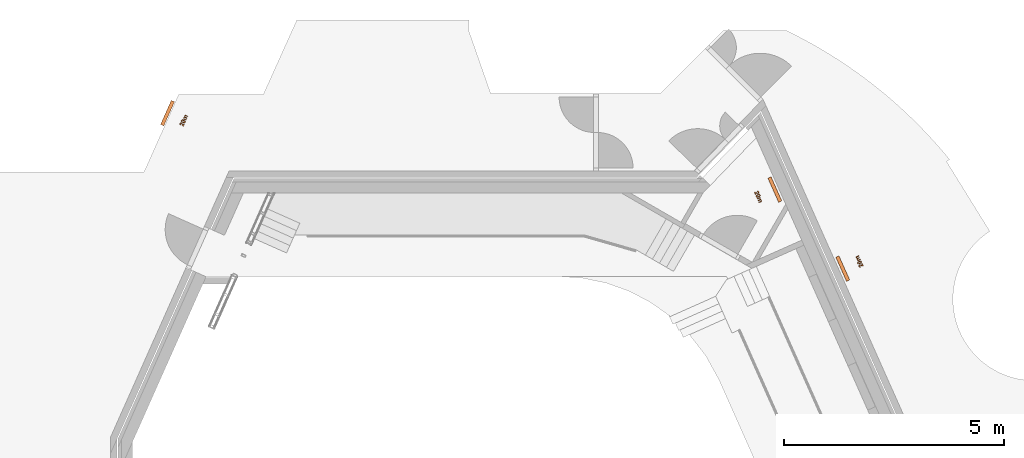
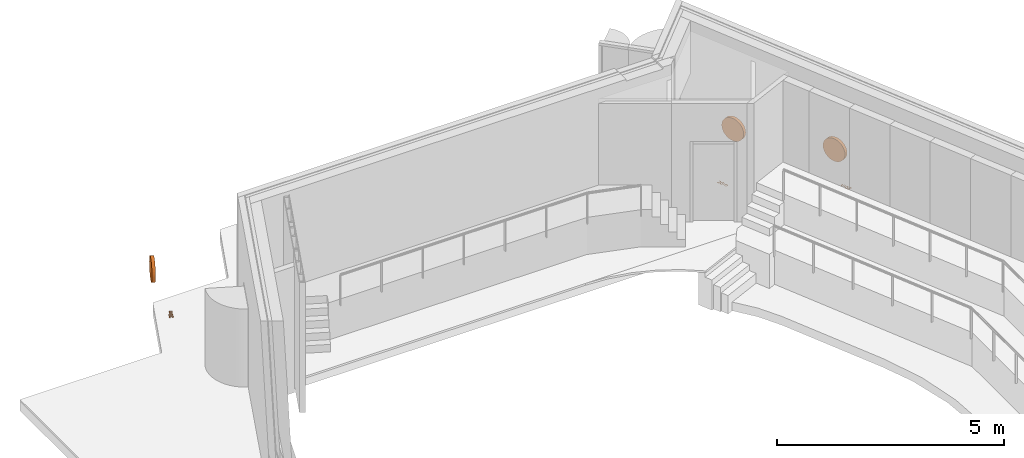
# One storey, part 16 of 16: 3 proxies.
"""IFC2X3 building model written with IfcOpenShell, lengths in millimetres."""

import ifcopenshell
import ifcopenshell.guid

model = None  # the IFC model being written
_history = None  # IfcOwnerHistory: only IFC2X3 demands one
_inside = {}  # id of a spatial element -> (the spatial element, [elements in it])
_under = {}  # id of a project, library or spatial element -> (it, [spatial elements below it])
_declared = {}  # id of a project -> (the project, [libraries it declares])
_typed = {}  # id of a type object -> (the type object, [elements of that type])
_made_of = {}  # id of a material, layer set ... -> (it, [elements and type objects made of it])


def new_model(schema):
    """Start an empty IFC model of exactly this schema.

    Asked for "IFC4X3", IfcOpenShell would pick the latest addendum, in which some entities
    have other attributes; the version numbers below select the first issue.
    IFC2X3 requires an IfcOwnerHistory on every rooted entity: one is made here for all.
    """
    global model, _history
    if schema == "IFC4X3":
        model = ifcopenshell.file(schema_version=(4, 3, 0, 0))
    else:
        model = ifcopenshell.file(schema=schema)
    _inside.clear()
    _under.clear()
    _declared.clear()
    _typed.clear()
    _made_of.clear()
    _history = None
    if model.schema == "IFC2X3":
        org = make("IfcOrganization", Name="unknown")
        user = make(
            "IfcPersonAndOrganization",
            ThePerson=make("IfcPerson", FamilyName="unknown"),
            TheOrganization=org,
        )
        app = make(
            "IfcApplication",
            ApplicationDeveloper=org,
            Version="unknown",
            ApplicationFullName="unknown",
            ApplicationIdentifier="unknown",
        )
        _history = make(
            "IfcOwnerHistory",
            OwningUser=user,
            OwningApplication=app,
            ChangeAction="ADDED",
            CreationDate=0,
        )
    return model


def make(cls, **values):
    """One entity of the class cls with the attributes given. An attribute that is None is left unset."""
    return model.create_entity(
        cls, **{name: value for name, value in values.items() if value is not None}
    )


def entity(cls, *values):
    """Any entity or typed value of the class cls, its attributes in the order of the schema. None: left unset."""
    e = model.create_entity(cls)
    for i, value in enumerate(values):
        if value is not None:
            e[i] = value
    return e


def rooted(cls, **values):
    """An entity with a GlobalId (a new one), such as an element, a storey or a relation."""
    return make(cls, GlobalId=ifcopenshell.guid.new(), OwnerHistory=_history, **values)


def si_unit(unit_type, name, prefix=None):
    """IfcSIUnit, for example si_unit("LENGTHUNIT", "METRE", prefix="MILLI")."""
    return make("IfcSIUnit", UnitType=unit_type, Prefix=prefix, Name=name)


def converted_unit(unit_type, name, factor, base, dimensions=None, offset=None):
    """IfcConversionBasedUnit, such as the inch: factor (a typed value) times the base unit."""
    return make(
        "IfcConversionBasedUnit"
        if offset is None
        else "IfcConversionBasedUnitWithOffset",
        ConversionOffset=offset,
        Dimensions=None
        if dimensions is None
        else entity("IfcDimensionalExponents", *dimensions),
        UnitType=unit_type,
        Name=name,
        ConversionFactor=make(
            "IfcMeasureWithUnit", ValueComponent=factor, UnitComponent=base
        ),
    )


def derived_unit(unit_type, elements):
    """IfcDerivedUnit: a product of units, each with its exponent."""
    return make(
        "IfcDerivedUnit",
        Elements=[
            make("IfcDerivedUnitElement", Unit=unit, Exponent=power)
            for unit, power in elements
        ],
        UnitType=unit_type,
    )


def assignment(units):
    """IfcUnitAssignment: the units of a project."""
    return None if units is None else make("IfcUnitAssignment", Units=units)


def point(xyz):
    """IfcCartesianPoint."""
    return None if xyz is None else make("IfcCartesianPoint", Coordinates=xyz)


def direction(xyz):
    """IfcDirection."""
    return None if xyz is None else make("IfcDirection", DirectionRatios=xyz)


def frame(location, z_axis=None, x_axis=None):
    """IfcAxis2Placement3D, a coordinate frame: its origin and axes. An axis left out is left unset."""
    return make(
        "IfcAxis2Placement3D",
        Location=point(location),
        Axis=direction(z_axis),
        RefDirection=direction(x_axis),
    )


def origin():
    """The frame at (0, 0, 0) with its axes left unset."""
    return frame((0.0, 0.0, 0.0))


def place(relative_to, where):
    """IfcLocalPlacement: puts the frame where relative to a parent placement (None: the world)."""
    return make(
        "IfcLocalPlacement", PlacementRelTo=relative_to, RelativePlacement=where
    )


def context(
    kind, dimensions, precision=None, world=None, true_north=None, identifier=None
):
    """IfcGeometricRepresentationContext, for example the 3D "Model" context."""
    return make(
        "IfcGeometricRepresentationContext",
        ContextIdentifier=identifier,
        ContextType=kind,
        CoordinateSpaceDimension=dimensions,
        Precision=precision,
        WorldCoordinateSystem=world,
        TrueNorth=true_north,
    )


def subcontext(parent, identifier, kind, view, scale=None):
    """IfcGeometricRepresentationSubContext, for example "Body" below "Model"."""
    return make(
        "IfcGeometricRepresentationSubContext",
        ContextIdentifier=identifier,
        ContextType=kind,
        ParentContext=parent,
        TargetScale=scale,
        TargetView=view,
    )


def project(units=None, contexts=None):
    """IfcProject with its units and contexts."""
    return rooted(
        "IfcProject",
        Name="project",
        RepresentationContexts=contexts,
        UnitsInContext=assignment(units),
    )


def spatial(cls, under=None, at=None, **own):
    """A site, building, storey or space (cls), placed at a placement, below another one or the project."""
    s = rooted(cls, ObjectPlacement=at, **own)
    if under is not None:
        _under.setdefault(under.id(), (under, []))[1].append(s)
    return s


def faces_of(points, faces, orient=None, outer=None):
    """IfcFace entities. A face is a list of loops; a loop is a list of indices into points, from 0.

    orient and outer hold one flag for each loop. By default every Orientation is true, the
    first loop of a face is its IfcFaceOuterBound and the others are IfcFaceBound.
    """
    made = []
    for i, loops in enumerate(faces):
        bounds = []
        for j, loop in enumerate(loops):
            is_outer = j == 0 if outer is None else outer[i][j]
            bounds.append(
                make(
                    "IfcFaceOuterBound" if is_outer else "IfcFaceBound",
                    Bound=make("IfcPolyLoop", Polygon=[points[k] for k in loop]),
                    Orientation=True if orient is None else orient[i][j],
                )
            )
        made.append(make("IfcFace", Bounds=bounds))
    return made


def face_set(faces, orient=None, outer=None):
    """The faces of one IfcConnectedFaceSet. surface_model builds it on its shared points."""
    return ("IfcConnectedFaceSet", faces, orient, outer)


def surface_model(cls, points, shells):
    """IfcFaceBasedSurfaceModel or IfcShellBasedSurfaceModel (cls): surfaces that need not close."""
    shared = [point(p) for p in points]
    made = [make(c, CfsFaces=faces_of(shared, fs, o, b)) for c, fs, o, b in shells]
    if cls == "IfcFaceBasedSurfaceModel":
        return make(cls, FbsmFaces=made)
    return make(cls, SbsmBoundary=made)


def shape(context_of_items, identifier, shape_type, items):
    """IfcShapeRepresentation: the items that make up one representation, for example the "Body"."""
    return make(
        "IfcShapeRepresentation",
        ContextOfItems=context_of_items,
        RepresentationIdentifier=identifier,
        RepresentationType=shape_type,
        Items=items,
    )


def source(mapping_origin, context_of_items, identifier, shape_type, items):
    """IfcRepresentationMap: a shape defined once, which mapped items show again and again."""
    return make(
        "IfcRepresentationMap",
        MappingOrigin=mapping_origin,
        MappedRepresentation=shape(context_of_items, identifier, shape_type, items),
    )


def transform(
    local_origin,
    x_axis=None,
    y_axis=None,
    z_axis=None,
    scale=None,
    scale2=None,
    scale3=None,
    uniform=True,
):
    """IfcCartesianTransformationOperator3D, or its non-uniform kind. x_axis, y_axis, z_axis: its Axis1, 2, 3."""
    if uniform:
        return make(
            "IfcCartesianTransformationOperator3D",
            Axis1=direction(x_axis),
            Axis2=direction(y_axis),
            LocalOrigin=point(local_origin),
            Scale=scale,
            Axis3=direction(z_axis),
        )
    return make(
        "IfcCartesianTransformationOperator3DnonUniform",
        Axis1=direction(x_axis),
        Axis2=direction(y_axis),
        LocalOrigin=point(local_origin),
        Scale=scale,
        Axis3=direction(z_axis),
        Scale2=scale2,
        Scale3=scale3,
    )


def mapped(mapping_source, mapping_target):
    """IfcMappedItem: shows the shape of a source again, moved by a transform."""
    return make(
        "IfcMappedItem", MappingSource=mapping_source, MappingTarget=mapping_target
    )


def material(Name=None, Category=None):
    """IfcMaterial."""
    return make("IfcMaterial", Name=Name, Category=Category)


def made_of(thing, what):
    """Note that an element or type object is made of a material, layer set ...; save() writes the relation."""
    if what is not None:
        _made_of.setdefault(what.id(), (what, []))[1].append(thing)
    return thing


def type_object(cls, material=None, **own):
    """A type object (cls), such as IfcWallType, which elements share."""
    return made_of(rooted(cls, **own), material)


def type_shapes(of_type, sources):
    """Give a type object the sources (RepresentationMaps) that its elements show as mapped items."""
    of_type.RepresentationMaps = sources


def element(
    cls,
    number,
    at=None,
    inside=None,
    cuts=None,
    type_object=None,
    material=None,
    context=None,
    identifier="Body",
    shape_type=None,
    held_by="IfcProductDefinitionShape",
    body=None,
    shapes=None,
    **own,
):
    """One element of the class cls, such as IfcWall. Its Tag is "e" and its number.

    at: its placement. inside: the storey or other place that contains it. cuts: it is an
    opening in that element (IfcRelVoidsElement). A single representation is given by context,
    identifier, shape_type and body (its items); several are given by shapes. held_by: the class
    of the entity that holds the representations. save() writes the other relations.
    """
    e = rooted(cls, Tag="e%d" % number, ObjectPlacement=at, **own)
    if body is not None:
        shapes = [shape(context, identifier, shape_type, body)]
    if shapes is not None:
        e.Representation = make(held_by, Representations=shapes)
    if inside is not None:
        _inside.setdefault(inside.id(), (inside, []))[1].append(e)
    if cuts is not None:
        rooted(
            "IfcRelVoidsElement", RelatingBuildingElement=cuts, RelatedOpeningElement=e
        )
    if type_object is not None:
        _typed.setdefault(type_object.id(), (type_object, []))[1].append(e)
    return made_of(e, material)


def aggregate(whole, parts):
    """IfcRelAggregates: a whole, such as a stair, and the parts it consists of."""
    return rooted("IfcRelAggregates", RelatingObject=whole, RelatedObjects=parts)


def save(model, path):
    """Write the relations noted so far, then the file.

    IfcRelAggregates (storeys below a building ...), IfcRelContainedInSpatialStructure (elements
    in a storey), IfcRelDefinesByType, IfcRelAssociatesMaterial and IfcRelDeclares: one each for
    every whole, place, type object, material and project.
    """
    for whole, parts in _under.values():
        aggregate(whole, parts)
    for where, things in _inside.values():
        rooted(
            "IfcRelContainedInSpatialStructure",
            RelatedElements=things,
            RelatingStructure=where,
        )
    for kind, things in _typed.values():
        rooted("IfcRelDefinesByType", RelatedObjects=things, RelatingType=kind)
    for what, things in _made_of.values():
        rooted("IfcRelAssociatesMaterial", RelatedObjects=things, RelatingMaterial=what)
    for by, libraries in _declared.values():
        rooted("IfcRelDeclares", RelatingContext=by, RelatedDefinitions=libraries)
    model.write(path)


model = new_model("IFC2X3")

# Units and contexts
model_context = context("Model", 3, precision=0.01, world=origin(), true_north=direction((6.123031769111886e-17, 1.0)))
body_context = subcontext(model_context, "Body", "Model", "MODEL_VIEW")
ifc_project = project(units=[si_unit("LENGTHUNIT", "METRE", prefix="MILLI"), si_unit("AREAUNIT", "SQUARE_METRE"), si_unit("VOLUMEUNIT", "CUBIC_METRE"), converted_unit("PLANEANGLEUNIT", "DEGREE", entity("IfcRatioMeasure", 0.017453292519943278), si_unit("PLANEANGLEUNIT", "RADIAN"), dimensions=[0, 0, 0, 0, 0, 0, 0]), si_unit("MASSUNIT", "GRAM", prefix="KILO"), derived_unit("MASSDENSITYUNIT", [(si_unit("MASSUNIT", "GRAM", prefix="KILO"), 1), (si_unit("LENGTHUNIT", "METRE"), -3)]), derived_unit("MOMENTOFINERTIAUNIT", [(si_unit("LENGTHUNIT", "METRE"), 4)]), si_unit("TIMEUNIT", "SECOND"), si_unit("FREQUENCYUNIT", "HERTZ"), si_unit("THERMODYNAMICTEMPERATUREUNIT", "DEGREE_CELSIUS"), derived_unit("THERMALTRANSMITTANCEUNIT", [(si_unit("MASSUNIT", "GRAM", prefix="KILO"), 1), (si_unit("THERMODYNAMICTEMPERATUREUNIT", "KELVIN"), -1), (si_unit("TIMEUNIT", "SECOND"), -3)]), derived_unit("VOLUMETRICFLOWRATEUNIT", [(si_unit("LENGTHUNIT", "METRE"), 3), (si_unit("TIMEUNIT", "SECOND"), -1)]), derived_unit("MASSFLOWRATEUNIT", [(si_unit("MASSUNIT", "GRAM", prefix="KILO"), 1), (si_unit("TIMEUNIT", "SECOND"), -1)]), derived_unit("ROTATIONALFREQUENCYUNIT", [(si_unit("TIMEUNIT", "SECOND"), -1)]), si_unit("ELECTRICCURRENTUNIT", "AMPERE"), si_unit("ELECTRICVOLTAGEUNIT", "VOLT"), si_unit("POWERUNIT", "WATT"), si_unit("FORCEUNIT", "NEWTON", prefix="KILO"), si_unit("ILLUMINANCEUNIT", "LUX"), si_unit("LUMINOUSFLUXUNIT", "LUMEN"), si_unit("LUMINOUSINTENSITYUNIT", "CANDELA"), derived_unit("USERDEFINED", [(si_unit("MASSUNIT", "GRAM", prefix="KILO"), -1), (si_unit("LENGTHUNIT", "METRE"), -2), (si_unit("TIMEUNIT", "SECOND"), 3), (si_unit("LUMINOUSFLUXUNIT", "LUMEN"), 1)]), derived_unit("SOUNDPOWERUNIT", [(si_unit("MASSUNIT", "GRAM", prefix="KILO"), 1), (si_unit("LENGTHUNIT", "METRE"), 2), (si_unit("TIMEUNIT", "SECOND"), -3)]), derived_unit("SOUNDPRESSUREUNIT", [(si_unit("MASSUNIT", "GRAM", prefix="KILO"), 1), (si_unit("LENGTHUNIT", "METRE"), -1), (si_unit("TIMEUNIT", "SECOND"), -2)]), derived_unit("LINEARVELOCITYUNIT", [(si_unit("LENGTHUNIT", "METRE"), 1), (si_unit("TIMEUNIT", "SECOND"), -1)]), si_unit("PRESSUREUNIT", "PASCAL"), derived_unit("USERDEFINED", [(si_unit("LENGTHUNIT", "METRE"), -2), (si_unit("MASSUNIT", "GRAM", prefix="KILO"), 1), (si_unit("TIMEUNIT", "SECOND"), -2)]), derived_unit("LINEARFORCEUNIT", [(si_unit("MASSUNIT", "GRAM", prefix="KILO"), 1), (si_unit("LENGTHUNIT", "METRE"), 1), (si_unit("TIMEUNIT", "SECOND"), -2), (si_unit("LENGTHUNIT", "METRE"), -1)]), derived_unit("PLANARFORCEUNIT", [(si_unit("MASSUNIT", "GRAM", prefix="KILO"), 1), (si_unit("LENGTHUNIT", "METRE"), 1), (si_unit("TIMEUNIT", "SECOND"), -2), (si_unit("LENGTHUNIT", "METRE"), -2)])], contexts=[model_context])

# Site, building, storey, space
site_placement = place(None, frame((-10000.0, -10000.0, 0.0)))
site = spatial("IfcSite", under=ifc_project, at=site_placement, Name="Default", CompositionType="ELEMENT")
building_placement = place(site_placement, origin())
building = spatial("IfcBuilding", under=site, at=building_placement, CompositionType="ELEMENT")
storey_placement = place(building_placement, frame((0.0, 0.0, 9000.0)))
storey = spatial("IfcBuildingStorey", under=building, at=storey_placement, Name="02 2e verdieping", CompositionType="ELEMENT", Elevation=9000.0)
space_placement = place(storey_placement, origin())
space = spatial("IfcSpace", under=storey, at=space_placement, Name="2.1", CompositionType="ELEMENT", InteriorOrExteriorSpace="INTERNAL")

# Proxies
ifc_material = material(Name="<Unnamed>")
building_element_proxy_type = type_object("IfcBuildingElementProxyType", Name="NLRS_53_GM_brandslanghaspel opbouw_ags:20 meter", PredefinedType="NOTDEFINED", material=ifc_material)
shared_shape = source(origin(), body_context, "Body", "SurfaceModel", [
    surface_model("IfcFaceBasedSurfaceModel", [(229.7810715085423, 21.05297174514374, 0.0), (193.57097226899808, 21.05297174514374, 0.0), (197.21475584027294, 26.366822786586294, 0.0), (208.31058289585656, 37.42469376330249, 0.0), (220.3932680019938, 50.17793626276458, 0.0), (227.5290108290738, 62.956482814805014, 0.0), (229.7810715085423, 75.81094152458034, 0.0), (227.7251172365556, 86.70749916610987, 0.0), (221.55725442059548, 95.661970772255, 0.0), (211.78989012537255, 101.64954221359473, 0.0), (198.9354314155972, 103.64539936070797, 0.0), (186.897028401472, 101.86462666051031, 0.0), (177.04742593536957, 96.52230855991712, 0.0), (170.06350742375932, 87.08705995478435, 0.0), (166.62215627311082, 73.02749574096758, 0.0), (186.0556686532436, 71.25621206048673, 0.0), (189.8006684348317, 82.45325532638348, 0.0), (198.50526252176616, 85.8313463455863, 0.0), (207.19720458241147, 82.40264722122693, 0.0), (210.34755912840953, 72.57202279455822, 0.0), (206.60255934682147, 60.88155050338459, 0.0), (191.57195211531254, 44.58574064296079, 0.0), (171.20218978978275, 20.68606298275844, 0.0), (165.00269690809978, 1.6194593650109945, 0.0), (229.7810715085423, 1.6194593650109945, 0.0), (275.1259337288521, 103.64539936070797, 0.0), (262.2271929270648, 101.05173397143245, 0.0), (252.5294147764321, 93.2707378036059, 0.0), (245.18491351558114, 76.65230127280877, 0.0), (242.73674642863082, 51.99982804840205, 0.0), (244.96666606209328, 27.233486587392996, 0.0), (251.65642496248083, 11.386823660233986, 0.0), (261.98364142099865, 2.8467059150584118, 0.0), (275.1259337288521, 0.0, 0.0), (288.0246745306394, 2.5936653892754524, 0.0), (297.72245268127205, 10.374661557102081, 0.0), (305.066953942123, 27.031054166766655, 0.0), (307.5151210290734, 51.79739562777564, 0.0), (305.0796059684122, 76.5637370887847, 0.0), (297.7730607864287, 93.1189134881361, 0.0), (288.0373265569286, 101.013777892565, 0.0), (275.1259337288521, 85.8313463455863, 0.0), (281.5658151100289, 83.69315390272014, 0.0), (286.23441281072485, 75.17834021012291, 0.0), (288.0816086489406, 51.79739562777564, 0.0), (286.00667633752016, 27.632025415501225, 0.0), (281.60377118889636, 19.952245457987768, 0.0), (275.1259337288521, 17.814053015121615, 0.0), (268.6860523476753, 19.926941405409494, 0.0), (264.01745464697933, 28.403799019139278, 0.0), (262.1702588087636, 51.79739562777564, 0.0), (264.245191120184, 76.01337394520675, 0.0), (268.6480962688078, 83.69315390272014, 0.0), (322.0902553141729, 76.11459015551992, 0.0), (322.0902553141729, 1.6194593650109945, 0.0), (341.5237676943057, 1.6194593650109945, 0.0), (341.5237676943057, 38.0825991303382, 0.0), (343.04201084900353, 53.556027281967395, 0.0), (348.0522132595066, 60.69177010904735, 0.0), (355.92177361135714, 63.15891523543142, 0.0), (361.67844557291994, 61.602716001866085, 0.0), (364.80349606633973, 56.870858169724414, 0.0), (365.81565816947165, 42.73854480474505, 0.0), (365.81565816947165, 1.6194593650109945, 0.0), (385.2491705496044, 1.6194593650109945, 0.0), (385.2491705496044, 37.65243023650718, 0.0), (386.80536978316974, 53.163814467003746, 0.0), (391.8914843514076, 60.61585795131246, 0.0), (399.4194399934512, 63.15891523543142, 0.0), (407.56734492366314, 58.907834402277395, 0.0), (409.5410610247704, 44.509828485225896, 0.0), (409.5410610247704, 1.6194593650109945, 0.0), (428.97457340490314, 1.6194593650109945, 0.0), (428.97457340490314, 49.216382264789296, 0.0), (427.0008573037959, 64.6265502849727, 0.0), (418.70112805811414, 74.40656660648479, 0.0), (405.1634599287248, 77.73404952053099, 0.0), (393.30851129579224, 74.88734360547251, 0.0), (382.97180581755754, 66.27131370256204, 0.0), (374.88716101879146, 74.88734360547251, 0.0), (363.25994885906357, 77.73404952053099, 0.0), (351.525194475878, 74.83673550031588, 0.0), (341.5237676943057, 66.1447934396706, 0.0), (341.5237676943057, 76.11459015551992, 0.0), (1.5952722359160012, 414.42866249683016, 1250.0), (7.359688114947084, 414.42866249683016, 1308.5270966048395), (24.431412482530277, 414.42866249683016, 1364.8050297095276), (52.15438854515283, 414.42866249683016, 1416.6710699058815), (89.46323787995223, 414.42866249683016, 1462.1320343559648), (134.92420233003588, 414.42866249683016, 1499.440883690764), (186.79024252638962, 414.42866249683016, 1527.1638597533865), (243.0681756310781, 414.42866249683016, 1544.2355841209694), (301.5952722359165, 414.42866249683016, 1550.0), (360.1223688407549, 414.42866249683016, 1544.2355841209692), (416.4003019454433, 414.42866249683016, 1527.1638597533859), (468.26634214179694, 414.42866249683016, 1499.4408836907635), (513.7273065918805, 414.42866249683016, 1462.1320343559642), (551.0361559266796, 414.42866249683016, 1416.6710699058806), (578.7591319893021, 414.42866249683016, 1364.805029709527), (595.8308563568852, 414.42866249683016, 1308.5270966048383), (601.5952722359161, 414.42866249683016, 1250.0), (595.8308563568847, 414.42866249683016, 1191.4729033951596), (578.7591319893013, 414.42866249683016, 1135.1949702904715), (551.0361559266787, 414.42866249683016, 1083.328930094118), (513.7273065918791, 414.42866249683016, 1037.8679656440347), (468.26634214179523, 414.42866249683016, 1000.5591163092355), (416.4003019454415, 414.42866249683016, 972.8361402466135), (360.1223688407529, 414.42866249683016, 955.7644158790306), (301.59527223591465, 414.42866249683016, 950.0), (243.06817563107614, 414.42866249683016, 955.7644158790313), (186.79024252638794, 414.42866249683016, 972.8361402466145), (134.92420233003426, 414.42866249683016, 1000.5591163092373), (89.46323787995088, 414.42866249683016, 1037.8679656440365), (52.15438854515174, 414.42866249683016, 1083.3289300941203), (24.43141248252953, 414.42866249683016, 1135.1949702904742), (7.359688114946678, 414.42866249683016, 1191.4729033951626), (1.5952722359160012, 494.42866249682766, 1250.0), (7.359688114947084, 494.42866249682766, 1308.5270966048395), (24.431412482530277, 494.42866249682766, 1364.8050297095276), (52.15438854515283, 494.42866249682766, 1416.6710699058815), (89.46323787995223, 494.42866249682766, 1462.1320343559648), (134.92420233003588, 494.42866249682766, 1499.440883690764), (186.79024252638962, 494.42866249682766, 1527.1638597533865), (243.0681756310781, 494.42866249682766, 1544.2355841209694), (301.5952722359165, 494.42866249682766, 1550.0), (360.1223688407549, 494.42866249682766, 1544.2355841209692), (416.4003019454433, 494.42866249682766, 1527.1638597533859), (468.26634214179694, 494.42866249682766, 1499.4408836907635), (513.7273065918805, 494.42866249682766, 1462.1320343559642), (551.0361559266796, 494.42866249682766, 1416.6710699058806), (578.7591319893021, 494.42866249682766, 1364.805029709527), (595.8308563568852, 494.42866249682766, 1308.5270966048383), (601.5952722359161, 494.42866249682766, 1250.0), (595.8308563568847, 494.42866249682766, 1191.4729033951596), (578.7591319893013, 494.42866249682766, 1135.1949702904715), (551.0361559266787, 494.42866249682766, 1083.328930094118), (513.7273065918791, 494.42866249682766, 1037.8679656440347), (468.26634214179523, 494.42866249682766, 1000.5591163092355), (416.4003019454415, 494.42866249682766, 972.8361402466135), (360.1223688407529, 494.42866249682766, 955.7644158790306), (301.59527223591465, 494.42866249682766, 950.0), (243.06817563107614, 494.42866249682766, 955.7644158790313), (186.79024252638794, 494.42866249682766, 972.8361402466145), (134.92420233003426, 494.42866249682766, 1000.5591163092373), (89.46323787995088, 494.42866249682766, 1037.8679656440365), (52.15438854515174, 494.42866249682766, 1083.3289300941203), (24.43141248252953, 494.42866249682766, 1135.1949702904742), (7.359688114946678, 494.42866249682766, 1191.4729033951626)], [face_set([[[0, 1, 2, 3, 4, 5, 6, 7, 8, 9, 10, 11, 12, 13, 14, 15, 16, 17, 18, 19, 20, 21, 22, 23, 24]], [[25, 26, 27, 28, 29, 30, 31, 32, 33, 34, 35, 36, 37, 38, 39, 40], [41, 42, 43, 44, 45, 46, 47, 48, 49, 50, 51, 52]], [[53, 54, 55, 56, 57, 58, 59, 60, 61, 62, 63, 64, 65, 66, 67, 68, 69, 70, 71, 72, 73, 74, 75, 76, 77, 78, 79, 80, 81, 82, 83]]]), face_set([[[84, 85, 86, 87, 88, 89, 90, 91, 92, 93, 94, 95, 96, 97, 98, 99, 100, 101, 102, 103, 104, 105, 106, 107, 108, 109, 110, 111, 112, 113, 114, 115]], [[116, 117, 118, 119, 120, 121, 122, 123, 124, 125, 126, 127, 128, 129, 130, 131, 132, 133, 134, 135, 136, 137, 138, 139, 140, 141, 142, 143, 144, 145, 146, 147]], [[116, 147, 115, 84]], [[147, 146, 114, 115]], [[146, 145, 113, 114]], [[144, 143, 111, 112]], [[143, 142, 110, 111]], [[145, 144, 112, 113]], [[142, 141, 109, 110]], [[140, 108, 109, 141]], [[106, 138, 137, 105]], [[107, 139, 138, 106]], [[105, 137, 136, 104]], [[102, 134, 133, 101]], [[103, 135, 134, 102]], [[104, 136, 135, 103]], [[101, 133, 132, 100]], [[107, 108, 140, 139]], [[132, 131, 99, 100]], [[131, 130, 98, 99]], [[130, 129, 97, 98]], [[128, 127, 95, 96]], [[127, 126, 94, 95]], [[129, 128, 96, 97]], [[126, 125, 93, 94]], [[124, 92, 93, 125]], [[90, 122, 121, 89]], [[91, 123, 122, 90]], [[89, 121, 120, 88]], [[86, 118, 117, 85]], [[87, 119, 118, 86]], [[88, 120, 119, 87]], [[85, 117, 116, 84]], [[91, 92, 124, 123]]])]),
])
type_shapes(building_element_proxy_type, [shared_shape])
proxy_placement = place(space_placement, frame((39843.044073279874, 49319.386305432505, 0.0), z_axis=(0.0, 0.0, 1.0), x_axis=(0.4067366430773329, -0.9135454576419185, 0.0)))
element("IfcBuildingElementProxy", 1, at=proxy_placement, inside=space, type_object=building_element_proxy_type, material=ifc_material, Name="NLRS_53_GM_brandslanghaspel opbouw_ags:20 meter", ObjectType="NLRS_53_GM_brandslanghaspel opbouw_ags:20 meter", context=body_context, shape_type="MappedRepresentation", body=[
    mapped(shared_shape, transform((0.0, 0.0, 0.0), scale=1.0)),
])
for number, where, z_axis, x_axis, name in (
    (2, (42462.887056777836, 47341.476653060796, 0.0), (0.0, 0.0, 1.0), (-0.40673664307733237, 0.9135454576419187, 0.0), "NLRS_53_GM_brandslanghaspel opbouw_ags:20 meter"),
    (3, (26867.202865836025, 50507.96872125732, 0.0), (0.0, 0.0, 1.0), (0.4074479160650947, 0.9132284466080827, 0.0), "NLRS_53_GM_brandslanghaspel opbouw_ags:20 meter"),
):
    element("IfcBuildingElementProxy", number, at=place(storey_placement, frame(where, z_axis=z_axis, x_axis=x_axis)), inside=storey, type_object=building_element_proxy_type, material=ifc_material, Name=name, ObjectType="NLRS_53_GM_brandslanghaspel opbouw_ags:20 meter", context=body_context, shape_type="MappedRepresentation", body=[
        mapped(shared_shape, transform((0.0, 0.0, 0.0), scale=1.0)),
    ])

save(model, "model.ifc")
